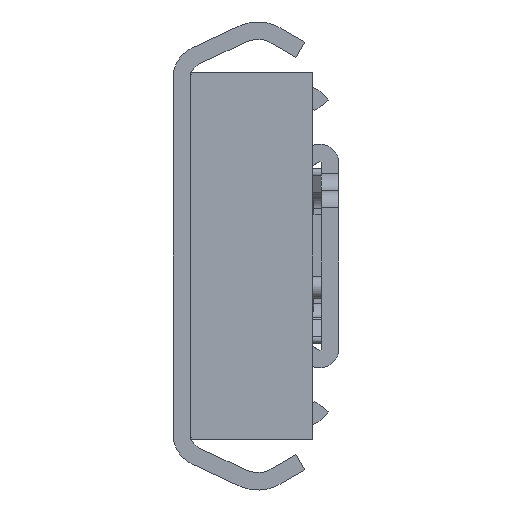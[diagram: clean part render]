
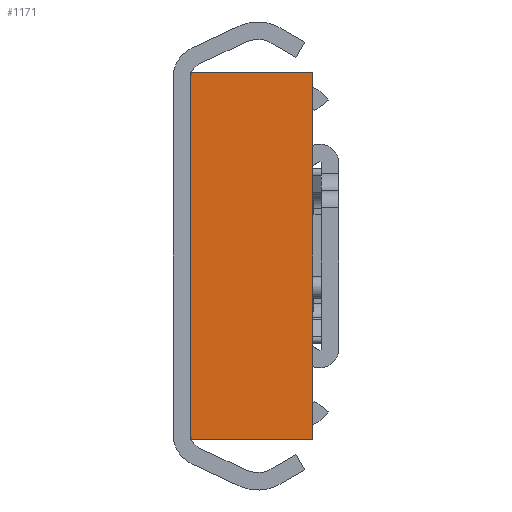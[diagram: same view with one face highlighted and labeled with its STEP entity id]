
A CAD part, front view. The second image highlights one B-rep face of the part: STEP entity #1171.
In plain terms, the highlighted planar face has unit normal (0, -1, 0).
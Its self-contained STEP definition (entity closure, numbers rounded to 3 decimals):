
#1171 = ADVANCED_FACE( '', ( #2483 ), #2484, .F. );
#2483 = FACE_OUTER_BOUND( '', #4006, .T. );
#2484 = PLANE( '', #4007 );
#4006 = EDGE_LOOP( '', ( #7250, #7251, #7252, #7253 ) );
#4007 = AXIS2_PLACEMENT_3D( '', #7254, #7255, #7256 );
#7250 = ORIENTED_EDGE( '', *, *, #10583, .T. );
#7251 = ORIENTED_EDGE( '', *, *, #9628, .F. );
#7252 = ORIENTED_EDGE( '', *, *, #10584, .F. );
#7253 = ORIENTED_EDGE( '', *, *, #9789, .T. );
#7254 = CARTESIAN_POINT( '', ( 14., -47.25, 21. ) );
#7255 = DIRECTION( '', ( 0., 1., 0. ) );
#7256 = DIRECTION( '', ( 0., 0., 1. ) );
#9628 = EDGE_CURVE( '', #11729, #11724, #11731, .T. );
#9789 = EDGE_CURVE( '', #12004, #12002, #12005, .T. );
#10583 = EDGE_CURVE( '', #12002, #11724, #13206, .T. );
#10584 = EDGE_CURVE( '', #12004, #11729, #13207, .T. );
#11724 = VERTEX_POINT( '', #14998 );
#11729 = VERTEX_POINT( '', #15005 );
#11731 = LINE( '', #15008, #15009 );
#12002 = VERTEX_POINT( '', #15587 );
#12004 = VERTEX_POINT( '', #15590 );
#12005 = LINE( '', #15591, #15592 );
#13206 = LINE( '', #17645, #17646 );
#13207 = LINE( '', #17647, #17648 );
#14998 = CARTESIAN_POINT( '', ( 0., -47.25, -21. ) );
#15005 = CARTESIAN_POINT( '', ( 14., -47.25, -21. ) );
#15008 = CARTESIAN_POINT( '', ( 14., -47.25, -21. ) );
#15009 = VECTOR( '', #19177, 1000. );
#15587 = CARTESIAN_POINT( '', ( 0., -47.25, 21. ) );
#15590 = CARTESIAN_POINT( '', ( 14., -47.25, 21. ) );
#15591 = CARTESIAN_POINT( '', ( 14., -47.25, 21. ) );
#15592 = VECTOR( '', #19380, 1000. );
#17645 = CARTESIAN_POINT( '', ( 0., -47.25, 21. ) );
#17646 = VECTOR( '', #20563, 1000. );
#17647 = CARTESIAN_POINT( '', ( 14., -47.25, 21. ) );
#17648 = VECTOR( '', #20564, 1000. );
#19177 = DIRECTION( '', ( -1., 0., 0. ) );
#19380 = DIRECTION( '', ( -1., 0., 0. ) );
#20563 = DIRECTION( '', ( 0., 0., -1. ) );
#20564 = DIRECTION( '', ( 0., 0., -1. ) );
